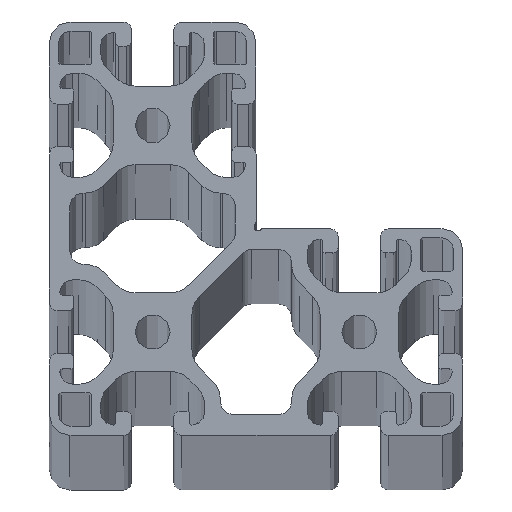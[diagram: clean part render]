
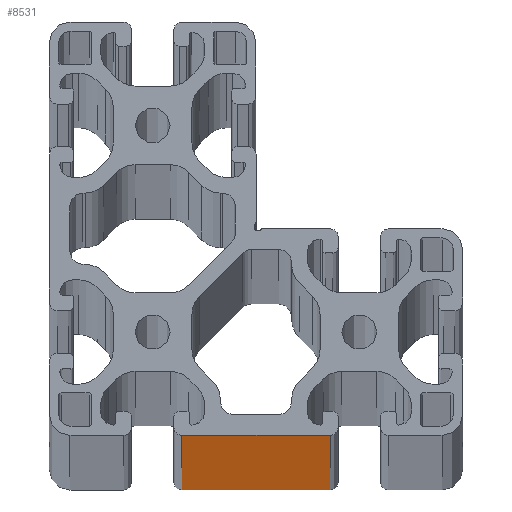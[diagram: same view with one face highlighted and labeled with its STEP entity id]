
A CAD part, top view. The second image highlights one B-rep face of the part: STEP entity #8531.
In plain terms, the highlighted planar face has unit normal (0, -1, 0).
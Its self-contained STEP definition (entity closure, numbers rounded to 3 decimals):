
#308 = DIRECTION ( 'NONE',  ( 1., 0., 0. ) ) ;
#311 = DIRECTION ( 'NONE',  ( 1., 0., 0. ) ) ;
#562 = DIRECTION ( 'NONE',  ( 0., 0., 1. ) ) ;
#683 = ORIENTED_EDGE ( 'NONE', *, *, #9670, .T. ) ;
#1075 = DIRECTION ( 'NONE',  ( 1., 0., 0. ) ) ;
#1131 = CARTESIAN_POINT ( 'NONE',  ( -14.4, -40., -6060. ) ) ;
#1143 = VECTOR ( 'NONE', #311, 1000. ) ;
#1154 = VERTEX_POINT ( 'NONE', #9636 ) ;
#1240 = PLANE ( 'NONE',  #6185 ) ;
#1443 = CARTESIAN_POINT ( 'NONE',  ( 14.4, -40., -6060. ) ) ;
#1958 = CARTESIAN_POINT ( 'NONE',  ( -14.4, -40., -6060. ) ) ;
#2098 = VERTEX_POINT ( 'NONE', #5534 ) ;
#3081 = EDGE_CURVE ( 'NONE', #1154, #2098, #5316, .T. ) ;
#3102 = VECTOR ( 'NONE', #562, 1000. ) ;
#3716 = FACE_OUTER_BOUND ( 'NONE', #5865, .T. ) ;
#3755 = LINE ( 'NONE', #1443, #3102 ) ;
#4498 = CARTESIAN_POINT ( 'NONE',  ( -14.4, -40., 0. ) ) ;
#4506 = CARTESIAN_POINT ( 'NONE',  ( 14.4, -40., -6060. ) ) ;
#4731 = ORIENTED_EDGE ( 'NONE', *, *, #10531, .F. ) ;
#4769 = EDGE_CURVE ( 'NONE', #6698, #2098, #3755, .T. ) ;
#5288 = DIRECTION ( 'NONE',  ( 0., 0., 1. ) ) ;
#5316 = LINE ( 'NONE', #4498, #1143 ) ;
#5534 = CARTESIAN_POINT ( 'NONE',  ( 14.4, -40., 0. ) ) ;
#5676 = VECTOR ( 'NONE', #5288, 1000. ) ;
#5865 = EDGE_LOOP ( 'NONE', ( #9551, #4731, #683, #7391 ) ) ;
#5870 = VECTOR ( 'NONE', #308, 1000. ) ;
#6185 = AXIS2_PLACEMENT_3D ( 'NONE', #9604, #7734, #1075 ) ;
#6698 = VERTEX_POINT ( 'NONE', #4506 ) ;
#6814 = VERTEX_POINT ( 'NONE', #1958 ) ;
#7391 = ORIENTED_EDGE ( 'NONE', *, *, #4769, .T. ) ;
#7714 = LINE ( 'NONE', #10316, #5676 ) ;
#7734 = DIRECTION ( 'NONE',  ( 0., -1., 0. ) ) ;
#8531 = ADVANCED_FACE ( 'NONE', ( #3716 ), #1240, .T. ) ;
#9551 = ORIENTED_EDGE ( 'NONE', *, *, #3081, .F. ) ;
#9604 = CARTESIAN_POINT ( 'NONE',  ( -14.4, -40., -6060. ) ) ;
#9636 = CARTESIAN_POINT ( 'NONE',  ( -14.4, -40., 0. ) ) ;
#9660 = LINE ( 'NONE', #1131, #5870 ) ;
#9670 = EDGE_CURVE ( 'NONE', #6814, #6698, #9660, .T. ) ;
#10316 = CARTESIAN_POINT ( 'NONE',  ( -14.4, -40., -6060. ) ) ;
#10531 = EDGE_CURVE ( 'NONE', #6814, #1154, #7714, .T. ) ;
